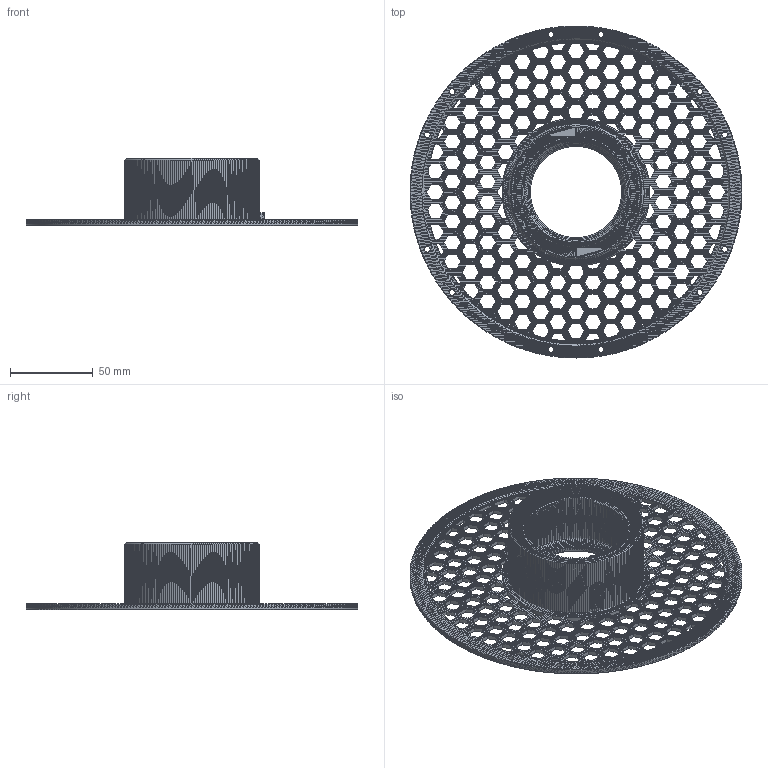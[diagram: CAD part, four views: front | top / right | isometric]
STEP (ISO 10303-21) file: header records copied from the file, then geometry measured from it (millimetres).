
FILE_DESCRIPTION(/* description */ (''),/* implementation_level */ '2;1');
FILE_NAME(/* name */ 'bambulab_spool_wide_mod.step',/* time_stamp */ '2022-12-25T00:55:28+01:00',/* author */ (''),/* organization */ (''),/* preprocessor_version */ 'ST-DEVELOPER v19.2',/* originating_system */ 'Autodesk Translation Framework v11.17.0.187',/* authorisation */ '');
FILE_SCHEMA (('AUTOMOTIVE_DESIGN { 1 0 10303 214 3 1 1 }'));
Products named in the file (1): bambulab_spool_wide_mod
Bounding box: 200 x 200 x 40.7 mm (x, y, z)
Volume: 86473.9 mm3; surface area: 86413.5 mm2
Topology: 1 solids, 1 shells, 23604 faces, 47294 edges, 23302 vertices
Faces by surface type: plane 23529, cylinder 75
Full cylindrical faces by diameter (mm): 2.2 x2, 3.5 x8
Entity records: 568031 total; most frequent: DIRECTION 95996, ORIENTED_EDGE 94588, CARTESIAN_POINT 94201, EDGE_CURVE 47294, LINE 45802, VECTOR 45802, AXIS2_PLACEMENT_3D 25097, EDGE_LOOP 23606
